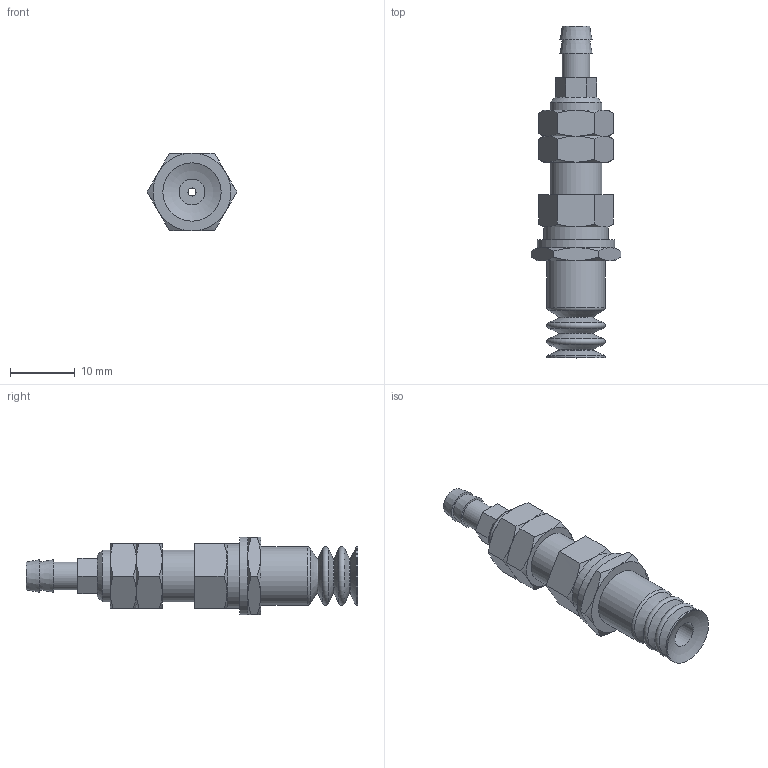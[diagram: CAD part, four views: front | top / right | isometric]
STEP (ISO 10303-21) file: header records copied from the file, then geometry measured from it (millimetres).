
FILE_DESCRIPTION(('STEP AP203'),'1');
FILE_NAME('.stp','2025-04-02T05:39:49',(' '),(' '),'Spatial InterOp 3D',' ',' ');
FILE_SCHEMA(('CONFIG_CONTROL_DESIGN'));
Length unit declared in the file: millimetre
Products named in the file (5): BBPCTK-10-※; Adapter-10-T; Nut PC_K 10; PCTK-10; BPCG-10-※
Assembly tree (5 placements, depth 2):
  BBPCTK-10-※
    Adapter-10-T
    Nut PC_K 10  x2
    PCTK-10
    BPCG-10-※
Bounding box: 13.86 x 51.2 x 12 mm (x, y, z)
Volume: 2708 mm3; surface area: 3363.9 mm2
Topology: 5 solids, 5 shells, 136 faces, 280 edges, 164 vertices
Faces by surface type: cone 59, plane 50, cylinder 17, torus 8, sphere 2
Full cylindrical faces by diameter (mm): 1.25 x1, 3 x1, 4 x1, 4.134 x1, 4.26 x1, 5 x5, 6.647 x2, 8 x1, 9 x2, 10 x1, 12 x1
Entity records: 3212 total; most frequent: CARTESIAN_POINT 811, DIRECTION 450, ORIENTED_EDGE 374, AXIS2_PLACEMENT_3D 204, EDGE_CURVE 187, EDGE_LOOP 172, FACE_OUTER_BOUND 139, VERTEX_POINT 133
